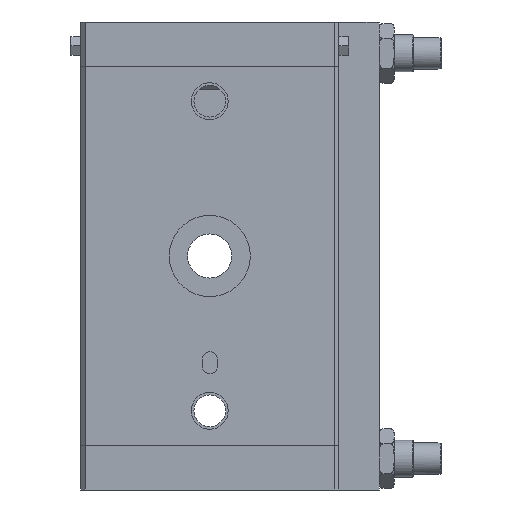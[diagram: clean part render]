
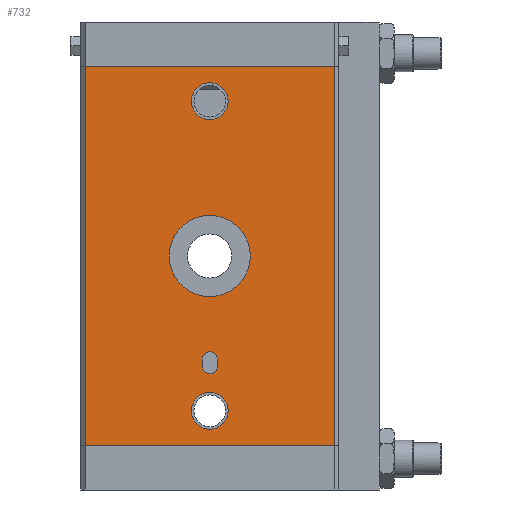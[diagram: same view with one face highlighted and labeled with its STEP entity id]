
A CAD part, front view. The second image highlights one B-rep face of the part: STEP entity #732.
In plain terms, the highlighted planar face has unit normal (0, -1, 0).
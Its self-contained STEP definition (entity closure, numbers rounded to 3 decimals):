
#74 = CIRCLE ( 'NONE', #9913, 11. ) ;
#117 = VERTEX_POINT ( 'NONE', #12545 ) ;
#498 = EDGE_LOOP ( 'NONE', ( #11507, #4499, #14022, #3471 ) ) ;
#639 = CARTESIAN_POINT ( 'NONE',  ( 0., 0., 42. ) ) ;
#643 = DIRECTION ( 'NONE',  ( 0., -1., 0. ) ) ;
#732 = ADVANCED_FACE ( 'NONE', ( #9572, #6657, #4106, #17304, #1468 ), #5515, .T. ) ;
#843 = CARTESIAN_POINT ( 'NONE',  ( 5., 0., -42. ) ) ;
#900 = DIRECTION ( 'NONE',  ( 0., 0., -1. ) ) ;
#1002 = VERTEX_POINT ( 'NONE', #843 ) ;
#1166 = CARTESIAN_POINT ( 'NONE',  ( 0., 0., -30. ) ) ;
#1468 = FACE_OUTER_BOUND ( 'NONE', #11751, .T. ) ;
#1664 = CARTESIAN_POINT ( 'NONE',  ( 33.8, 0., 51.5 ) ) ;
#1874 = VERTEX_POINT ( 'NONE', #7797 ) ;
#1966 = DIRECTION ( 'NONE',  ( 1., 0., 0. ) ) ;
#2067 = AXIS2_PLACEMENT_3D ( 'NONE', #8781, #9111, #2418 ) ;
#2229 = CARTESIAN_POINT ( 'NONE',  ( -33.8, 0., -51.5 ) ) ;
#2311 = EDGE_CURVE ( 'NONE', #10569, #10721, #16466, .T. ) ;
#2418 = DIRECTION ( 'NONE',  ( -1., 0., 0. ) ) ;
#2448 = EDGE_CURVE ( 'NONE', #1874, #2603, #4431, .T. ) ;
#2522 = AXIS2_PLACEMENT_3D ( 'NONE', #2790, #14692, #16092 ) ;
#2603 = VERTEX_POINT ( 'NONE', #6063 ) ;
#2790 = CARTESIAN_POINT ( 'NONE',  ( 35., 0., 51.5 ) ) ;
#2889 = CARTESIAN_POINT ( 'NONE',  ( 35., 0., -51.5 ) ) ;
#2900 = ORIENTED_EDGE ( 'NONE', *, *, #8377, .T. ) ;
#2980 = VECTOR ( 'NONE', #14051, 1000. ) ;
#3060 = LINE ( 'NONE', #2889, #12630 ) ;
#3119 = ORIENTED_EDGE ( 'NONE', *, *, #13024, .F. ) ;
#3226 = DIRECTION ( 'NONE',  ( 0., 0., -1. ) ) ;
#3314 = LINE ( 'NONE', #1664, #3957 ) ;
#3462 = DIRECTION ( 'NONE',  ( 1., 0., 0. ) ) ;
#3471 = ORIENTED_EDGE ( 'NONE', *, *, #15814, .F. ) ;
#3516 = EDGE_CURVE ( 'NONE', #7488, #5109, #74, .T. ) ;
#3544 = CARTESIAN_POINT ( 'NONE',  ( -33.8, 0., 51.5 ) ) ;
#3654 = CIRCLE ( 'NONE', #5072, 2. ) ;
#3957 = VECTOR ( 'NONE', #7093, 1000. ) ;
#4106 = FACE_BOUND ( 'NONE', #498, .T. ) ;
#4236 = EDGE_CURVE ( 'NONE', #9886, #1002, #6277, .T. ) ;
#4291 = VECTOR ( 'NONE', #900, 1000. ) ;
#4431 = LINE ( 'NONE', #12828, #2980 ) ;
#4499 = ORIENTED_EDGE ( 'NONE', *, *, #2448, .F. ) ;
#4632 = CARTESIAN_POINT ( 'NONE',  ( 0., 0., 42. ) ) ;
#4998 = CARTESIAN_POINT ( 'NONE',  ( 0., 0., -42. ) ) ;
#5060 = DIRECTION ( 'NONE',  ( -1., 0., 0. ) ) ;
#5072 = AXIS2_PLACEMENT_3D ( 'NONE', #6198, #643, #1966 ) ;
#5109 = VERTEX_POINT ( 'NONE', #11872 ) ;
#5515 = PLANE ( 'NONE',  #2522 ) ;
#5797 = EDGE_LOOP ( 'NONE', ( #9912, #13172 ) ) ;
#6019 = DIRECTION ( 'NONE',  ( 0., -1., 0. ) ) ;
#6063 = CARTESIAN_POINT ( 'NONE',  ( 2., 0., -28. ) ) ;
#6178 = VERTEX_POINT ( 'NONE', #12995 ) ;
#6198 = CARTESIAN_POINT ( 'NONE',  ( 0., 0., -28. ) ) ;
#6274 = LINE ( 'NONE', #3544, #4291 ) ;
#6277 = CIRCLE ( 'NONE', #12480, 5. ) ;
#6432 = CIRCLE ( 'NONE', #13204, 2. ) ;
#6551 = CARTESIAN_POINT ( 'NONE',  ( 33.8, 0., 51.5 ) ) ;
#6657 = FACE_BOUND ( 'NONE', #5797, .T. ) ;
#6794 = CARTESIAN_POINT ( 'NONE',  ( 11., 0., 0. ) ) ;
#7093 = DIRECTION ( 'NONE',  ( 0., 0., 1. ) ) ;
#7218 = VERTEX_POINT ( 'NONE', #15212 ) ;
#7392 = EDGE_CURVE ( 'NONE', #8351, #117, #13377, .T. ) ;
#7488 = VERTEX_POINT ( 'NONE', #6794 ) ;
#7610 = DIRECTION ( 'NONE',  ( 1., 0., 0. ) ) ;
#7611 = CARTESIAN_POINT ( 'NONE',  ( 35., 0., 51.5 ) ) ;
#7797 = CARTESIAN_POINT ( 'NONE',  ( 2., 0., -30. ) ) ;
#8010 = ORIENTED_EDGE ( 'NONE', *, *, #13372, .F. ) ;
#8301 = CARTESIAN_POINT ( 'NONE',  ( 5., 0., 42. ) ) ;
#8313 = DIRECTION ( 'NONE',  ( -1., 0., 0. ) ) ;
#8351 = VERTEX_POINT ( 'NONE', #6551 ) ;
#8377 = EDGE_CURVE ( 'NONE', #5109, #7488, #12501, .T. ) ;
#8626 = VECTOR ( 'NONE', #3226, 1000. ) ;
#8663 = EDGE_CURVE ( 'NONE', #117, #8805, #6274, .T. ) ;
#8781 = CARTESIAN_POINT ( 'NONE',  ( 0., 0., 0. ) ) ;
#8805 = VERTEX_POINT ( 'NONE', #2229 ) ;
#8887 = AXIS2_PLACEMENT_3D ( 'NONE', #639, #6019, #3462 ) ;
#9111 = DIRECTION ( 'NONE',  ( 0., 1., 0. ) ) ;
#9122 = DIRECTION ( 'NONE',  ( -1., 0., 0. ) ) ;
#9278 = EDGE_LOOP ( 'NONE', ( #8010, #16561 ) ) ;
#9518 = ORIENTED_EDGE ( 'NONE', *, *, #3516, .T. ) ;
#9572 = FACE_BOUND ( 'NONE', #9278, .T. ) ;
#9678 = ORIENTED_EDGE ( 'NONE', *, *, #8663, .T. ) ;
#9711 = VERTEX_POINT ( 'NONE', #14388 ) ;
#9886 = VERTEX_POINT ( 'NONE', #16912 ) ;
#9912 = ORIENTED_EDGE ( 'NONE', *, *, #2311, .F. ) ;
#9913 = AXIS2_PLACEMENT_3D ( 'NONE', #11940, #10443, #5060 ) ;
#10441 = CIRCLE ( 'NONE', #17150, 5. ) ;
#10443 = DIRECTION ( 'NONE',  ( 0., 1., 0. ) ) ;
#10569 = VERTEX_POINT ( 'NONE', #8301 ) ;
#10700 = EDGE_CURVE ( 'NONE', #2603, #9711, #3654, .T. ) ;
#10721 = VERTEX_POINT ( 'NONE', #13887 ) ;
#10728 = DIRECTION ( 'NONE',  ( 0., -1., 0. ) ) ;
#11507 = ORIENTED_EDGE ( 'NONE', *, *, #10700, .F. ) ;
#11663 = EDGE_LOOP ( 'NONE', ( #2900, #9518 ) ) ;
#11688 = VECTOR ( 'NONE', #13027, 1000. ) ;
#11751 = EDGE_LOOP ( 'NONE', ( #15630, #9678, #3119, #11848 ) ) ;
#11848 = ORIENTED_EDGE ( 'NONE', *, *, #15262, .T. ) ;
#11872 = CARTESIAN_POINT ( 'NONE',  ( -11., 0., 0. ) ) ;
#11940 = CARTESIAN_POINT ( 'NONE',  ( 0., 0., 0. ) ) ;
#12081 = AXIS2_PLACEMENT_3D ( 'NONE', #4998, #10728, #8313 ) ;
#12480 = AXIS2_PLACEMENT_3D ( 'NONE', #17118, #16076, #9122 ) ;
#12501 = CIRCLE ( 'NONE', #2067, 11. ) ;
#12514 = DIRECTION ( 'NONE',  ( -1., 0., 0. ) ) ;
#12545 = CARTESIAN_POINT ( 'NONE',  ( -33.8, 0., 51.5 ) ) ;
#12630 = VECTOR ( 'NONE', #12514, 1000. ) ;
#12828 = CARTESIAN_POINT ( 'NONE',  ( 2., 0., -30. ) ) ;
#12995 = CARTESIAN_POINT ( 'NONE',  ( 33.8, 0., -51.5 ) ) ;
#13024 = EDGE_CURVE ( 'NONE', #6178, #8805, #3060, .T. ) ;
#13027 = DIRECTION ( 'NONE',  ( -1., 0., 0. ) ) ;
#13172 = ORIENTED_EDGE ( 'NONE', *, *, #14529, .F. ) ;
#13204 = AXIS2_PLACEMENT_3D ( 'NONE', #1166, #14658, #14742 ) ;
#13224 = CIRCLE ( 'NONE', #12081, 5. ) ;
#13372 = EDGE_CURVE ( 'NONE', #1002, #9886, #13224, .T. ) ;
#13377 = LINE ( 'NONE', #7611, #11688 ) ;
#13637 = EDGE_CURVE ( 'NONE', #7218, #1874, #6432, .T. ) ;
#13738 = CARTESIAN_POINT ( 'NONE',  ( -2., 0., -28. ) ) ;
#13887 = CARTESIAN_POINT ( 'NONE',  ( -5., 0., 42. ) ) ;
#14022 = ORIENTED_EDGE ( 'NONE', *, *, #13637, .F. ) ;
#14051 = DIRECTION ( 'NONE',  ( 0., 0., 1. ) ) ;
#14388 = CARTESIAN_POINT ( 'NONE',  ( -2., 0., -28. ) ) ;
#14529 = EDGE_CURVE ( 'NONE', #10721, #10569, #10441, .T. ) ;
#14658 = DIRECTION ( 'NONE',  ( 0., -1., 0. ) ) ;
#14692 = DIRECTION ( 'NONE',  ( 0., -1., 0. ) ) ;
#14742 = DIRECTION ( 'NONE',  ( 1., 0., 0. ) ) ;
#15212 = CARTESIAN_POINT ( 'NONE',  ( -2., 0., -30. ) ) ;
#15262 = EDGE_CURVE ( 'NONE', #6178, #8351, #3314, .T. ) ;
#15630 = ORIENTED_EDGE ( 'NONE', *, *, #7392, .T. ) ;
#15743 = DIRECTION ( 'NONE',  ( 0., -1., 0. ) ) ;
#15814 = EDGE_CURVE ( 'NONE', #9711, #7218, #16436, .T. ) ;
#16076 = DIRECTION ( 'NONE',  ( 0., -1., 0. ) ) ;
#16092 = DIRECTION ( 'NONE',  ( 1., 0., 0. ) ) ;
#16436 = LINE ( 'NONE', #13738, #8626 ) ;
#16466 = CIRCLE ( 'NONE', #8887, 5. ) ;
#16561 = ORIENTED_EDGE ( 'NONE', *, *, #4236, .F. ) ;
#16912 = CARTESIAN_POINT ( 'NONE',  ( -5., 0., -42. ) ) ;
#17118 = CARTESIAN_POINT ( 'NONE',  ( 0., 0., -42. ) ) ;
#17150 = AXIS2_PLACEMENT_3D ( 'NONE', #4632, #15743, #7610 ) ;
#17304 = FACE_BOUND ( 'NONE', #11663, .T. ) ;
